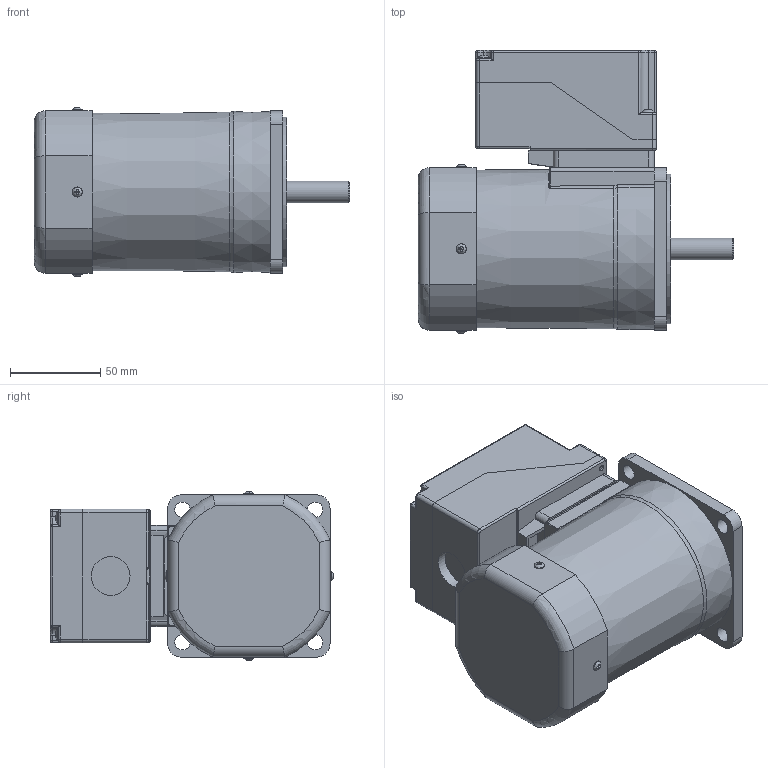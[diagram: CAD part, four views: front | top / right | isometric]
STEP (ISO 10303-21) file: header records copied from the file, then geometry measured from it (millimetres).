
FILE_DESCRIPTION(/* description */ (''),/* implementation_level */ '2;1');
FILE_NAME(/* name */ 'E:\도면작업\2016\0704) 미주향 SG 도면\3D MOTOR\TERMINAL BOX TYPE\INDUCTION TERMINAL BOX\SG9I90S_-T2.stp',/* time_stamp */ '2017-01-23T19:32:51+09:00',/* author */ ('jy-jung'),/* organization */ (''),/* preprocessor_version */ 'ST-DEVELOPER v15.6',/* originating_system */ 'Autodesk Inventor 2015',/* authorisation */ '');
FILE_SCHEMA (('AUTOMOTIVE_DESIGN { 1 0 10303 214 3 1 1 }'));
Length unit declared in the file: millimetre
Products named in the file (1): 부품2
Bounding box: 174.8 x 156.95 x 93.89 mm (x, y, z)
Volume: 1026407.7 mm3; surface area: 143057.8 mm2
Topology: 1 solids, 9 shells, 941 faces, 2479 edges, 1584 vertices
Faces by surface type: plane 497, cylinder 306, bspline 57, torus 45, cone 24, sphere 12
Full cylindrical faces by diameter (mm): 2.5 x4, 3 x8, 3.2 x3, 3.4 x1, 3.5 x4, 4.2 x1, 4.5 x8, 5.5 x8, 5.6 x4, 6.9 x4, 8.5 x4, 12 x1, 21.5 x1, 40 x1, 83 x1
Entity records: 31309 total; most frequent: CARTESIAN_POINT 7613, ORIENTED_EDGE 4688, DIRECTION 4647, EDGE_CURVE 2344, AXIS2_PLACEMENT_3D 1640, VERTEX_POINT 1567, LINE 1367, VECTOR 1367
